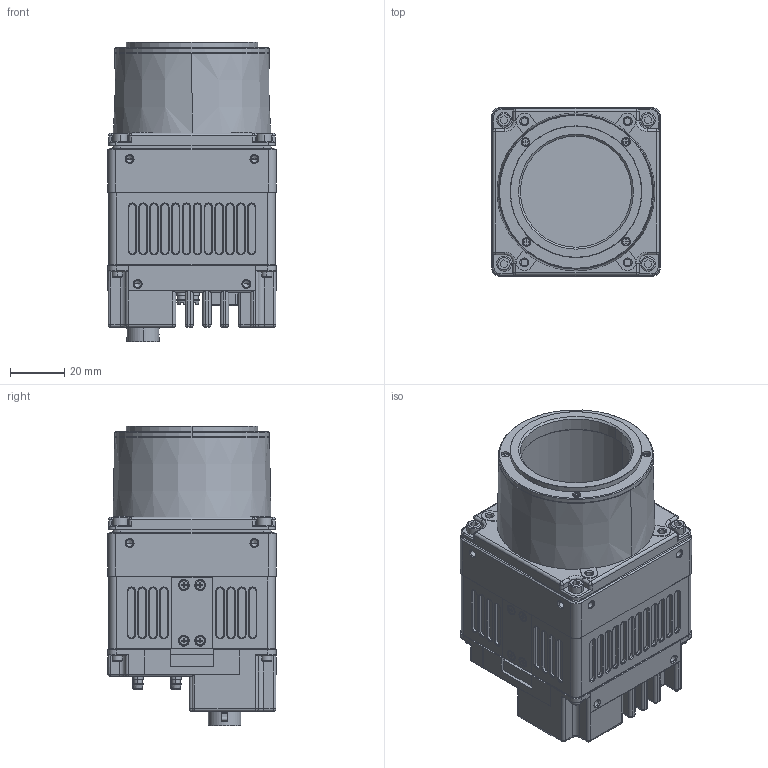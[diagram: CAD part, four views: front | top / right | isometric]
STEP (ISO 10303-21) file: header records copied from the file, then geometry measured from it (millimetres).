
FILE_DESCRIPTION((''),'2;1');
FILE_NAME('SW-4000TL-PMCL-M42_MOCK','2026-04-27T13:21:23',('aso'),(''),'CREO PARAMETRIC BY PTC INC, 2025323','CREO PARAMETRIC BY PTC INC, 2025323','');
FILE_SCHEMA(('AUTOMOTIVE_DESIGN { 1 0 10303 214 1 1 1 1 }'));
Products named in the file (1): SW-4000TL-PMCL-M42_MOCK
Bounding box: 62 x 62 x 110.3 mm (x, y, z)
Volume: 193798.8 mm3; surface area: 59401 mm2
Topology: 5 solids, 16 shells, 2827 faces, 7689 edges, 4848 vertices
Faces by surface type: plane 1590, cylinder 833, cone 273, torus 60, sphere 55, bspline 16
Entity records: 121114 total; most frequent: CARTESIAN_POINT 17787, ORIENTED_EDGE 15102, DIRECTION 14950, EDGE_CURVE 7582, PRESENTATION_STYLE_ASSIGNMENT 7051, STYLED_ITEM 5814, AXIS2_PLACEMENT_3D 5070, VERTEX_POINT 4848
